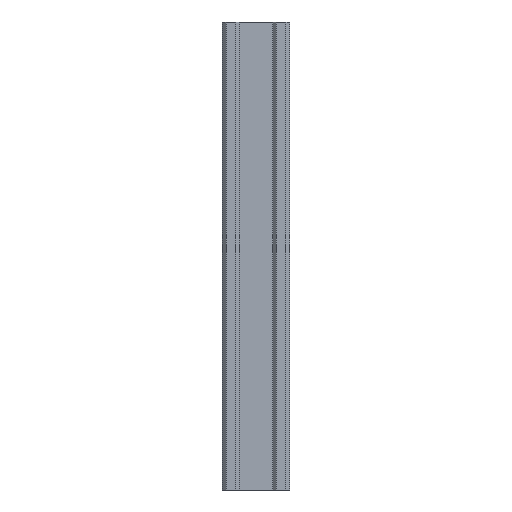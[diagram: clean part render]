
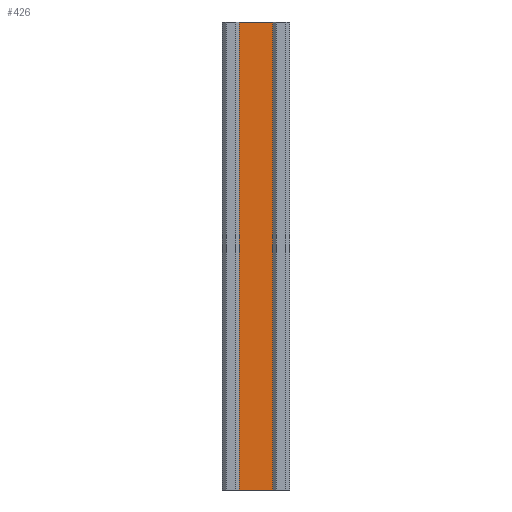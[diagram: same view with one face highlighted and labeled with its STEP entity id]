
A CAD part, front view. The second image highlights one B-rep face of the part: STEP entity #426.
In plain terms, the highlighted planar face has unit normal (0, -1, 0).
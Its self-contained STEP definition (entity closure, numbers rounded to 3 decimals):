
#17 = EDGE_CURVE ( 'NONE', #487, #338, #884, .T. ) ;
#18 = CARTESIAN_POINT ( 'NONE',  ( 5.75, 1.25, 80. ) ) ;
#30 = CARTESIAN_POINT ( 'NONE',  ( -5.75, 1.25, -80. ) ) ;
#69 = EDGE_LOOP ( 'NONE', ( #418, #309, #548, #672 ) ) ;
#158 = CARTESIAN_POINT ( 'NONE',  ( 5.75, 1.25, -80. ) ) ;
#167 = LINE ( 'NONE', #903, #861 ) ;
#214 = DIRECTION ( 'NONE',  ( 0., 1., 0. ) ) ;
#221 = CARTESIAN_POINT ( 'NONE',  ( 5.75, 1.25, -80. ) ) ;
#246 = EDGE_CURVE ( 'NONE', #487, #479, #617, .T. ) ;
#287 = DIRECTION ( 'NONE',  ( 0., 0., 1. ) ) ;
#309 = ORIENTED_EDGE ( 'NONE', *, *, #813, .F. ) ;
#321 = VECTOR ( 'NONE', #897, 1000. ) ;
#338 = VERTEX_POINT ( 'NONE', #18 ) ;
#362 = CARTESIAN_POINT ( 'NONE',  ( -5.75, 1.25, 80. ) ) ;
#390 = FACE_OUTER_BOUND ( 'NONE', #69, .T. ) ;
#407 = VERTEX_POINT ( 'NONE', #362 ) ;
#409 = CARTESIAN_POINT ( 'NONE',  ( -5.75, 1.25, 80. ) ) ;
#417 = DIRECTION ( 'NONE',  ( 0., 0., 1. ) ) ;
#418 = ORIENTED_EDGE ( 'NONE', *, *, #857, .T. ) ;
#426 = ADVANCED_FACE ( 'NONE', ( #390 ), #560, .F. ) ;
#435 = VECTOR ( 'NONE', #763, 1000. ) ;
#479 = VERTEX_POINT ( 'NONE', #30 ) ;
#487 = VERTEX_POINT ( 'NONE', #158 ) ;
#548 = ORIENTED_EDGE ( 'NONE', *, *, #246, .F. ) ;
#560 = PLANE ( 'NONE',  #659 ) ;
#617 = LINE ( 'NONE', #899, #435 ) ;
#631 = CARTESIAN_POINT ( 'NONE',  ( -5.75, 1.25, -80. ) ) ;
#642 = DIRECTION ( 'NONE',  ( 0., 0., 1. ) ) ;
#659 = AXIS2_PLACEMENT_3D ( 'NONE', #631, #214, #287 ) ;
#672 = ORIENTED_EDGE ( 'NONE', *, *, #17, .T. ) ;
#700 = VECTOR ( 'NONE', #642, 1000. ) ;
#763 = DIRECTION ( 'NONE',  ( -1., 0., 0. ) ) ;
#813 = EDGE_CURVE ( 'NONE', #479, #407, #167, .T. ) ;
#819 = LINE ( 'NONE', #409, #321 ) ;
#857 = EDGE_CURVE ( 'NONE', #338, #407, #819, .T. ) ;
#861 = VECTOR ( 'NONE', #417, 1000. ) ;
#884 = LINE ( 'NONE', #221, #700 ) ;
#897 = DIRECTION ( 'NONE',  ( -1., 0., 0. ) ) ;
#899 = CARTESIAN_POINT ( 'NONE',  ( -5.75, 1.25, -80. ) ) ;
#903 = CARTESIAN_POINT ( 'NONE',  ( -5.75, 1.25, -80. ) ) ;
